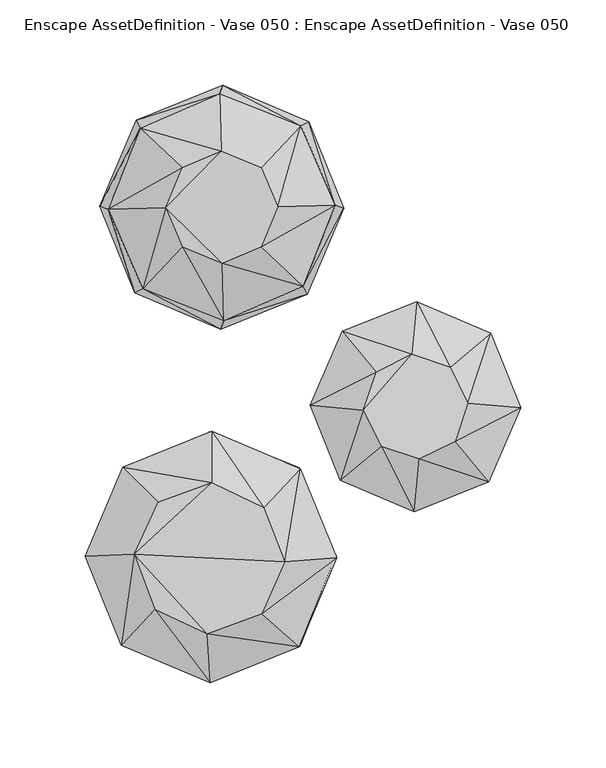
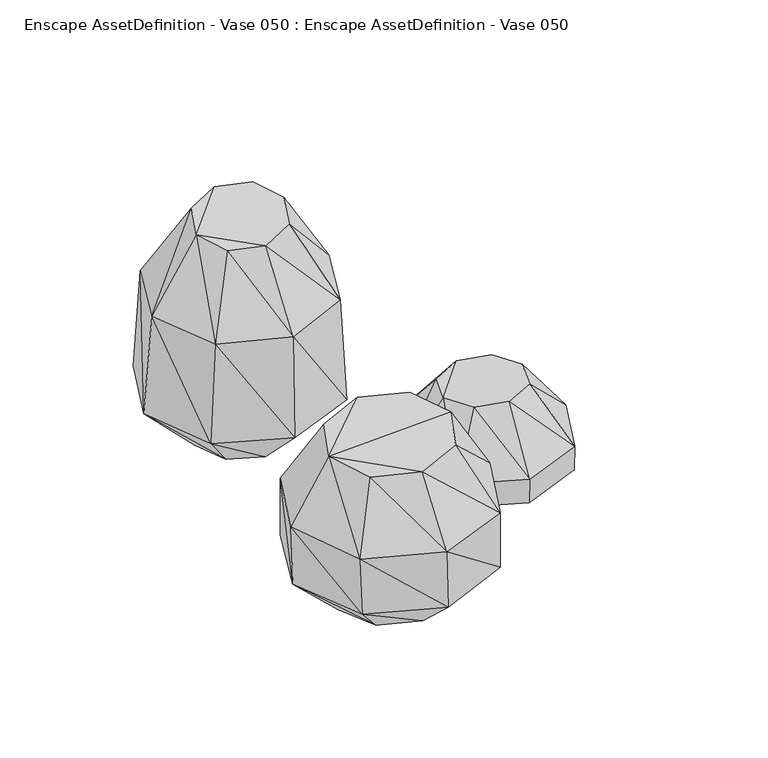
"""IFC4 building model written with IfcOpenShell, lengths in millimetres: geographic element geometry, Enscape AssetDefinition - Vase 050 : Enscape AssetDefinition - Vase 050."""

from ifc_helpers import new_model, si_unit, origin, place, context, project, spatial, triangles, source, transform, mapped, element, save


def enscape_assetdefinition_vase_050_enscape_assetdefinition_a4bf4c07(model_context):
    return source(origin(), model_context, "Body", "Tessellation", [
        triangles([(-1.1596022, 151.1875377, 116.1111994), (-24.4796127, 126.5806821, 174.3184841), (-14.7441298, 103.4253004, 172.7217792), (19.1452976, 104.3347198, 115.2348357), (3.5686704, 153.550602, 38.04401), (-46.9750306, 174.9741127, 38.0066259), (-48.6472123, 169.9597203, 115.2679097), (-47.7370753, 136.0702918, 173.0905794), (-97.8630854, 154.3830912, 38.0109407), (-81.2224769, 103.9206281, 0.0), (-95.5000302, 149.6548187, 114.9896926), (-98.694866, 52.9513328, 37.9692417), (-119.2866142, 103.8393921, 38.0066259), (-46.8937946, 136.9099753, 0.0), (-70.8902996, 127.5253283, 0.0), (-24.2359003, 78.9773196, 0.0), (-23.2898143, 126.5785292, 0.0), (-71.8370986, 79.9241277, 0.0), (-48.2324075, 69.5919459, 0.0), (2.7361725, 52.1195521, 38.005906), (-13.9044418, 102.5820107, 0.0), (24.1596967, 102.662529, 38.0066259), (0.3731144, 56.8478246, 114.8825771), (-46.4797029, 36.5429253, 114.4986706), (-48.1518892, 31.5285261, 38.0066259), (-24.2337452, 80.1678356, 169.3148651), (-70.6465917, 79.9219658, 164.5743477), (-47.3891223, 70.4323515, 165.9273538), (-93.9673112, 55.3151102, 113.624478), (-114.2722128, 102.1672013, 114.5295917), (-80.3820758, 103.0773474, 166.2932835), (-70.8931746, 126.3348123, 169.840378), (127.9387024, -14.5191117, 30.3797068), (110.1133188, 29.0569133, 11.780783), (110.375721, 29.3250678, 30.33873), (86.4719566, 9.4177238, 69.9449312), (66.9535486, 47.9088989, 30.3797068), (96.9601427, -11.6937936, 71.6163953), (64.1275129, 16.9303358, 68.5329943), (66.9571458, 47.533622, 11.7829381), (41.2841352, 12.0798484, 0.0), (66.8895627, 22.1409973, 0.0), (23.3768048, 30.0828, 11.7750307), (30.2927186, -13.1402419, 0.0), (23.1086503, 30.3452022, 30.2337696), (4.9000921, -13.0726634, 11.7829381), (4.5248209, -13.0769771, 30.3797068), (22.3509182, -56.6530009, 11.7829381), (102.1707985, -14.4558468, 0.0), (91.1800994, -39.6759349, 0.0), (92.1096484, 11.1495783, 0.0), (65.5746765, -49.7370849, 0.0), (40.3538686, -38.7456683, 0.0), (65.5063758, -75.1297165, 11.783658), (109.086719, -57.6788876, 11.7879705), (127.5634346, -14.5234242, 11.783658), (109.3555889, -57.9412898, 30.4580677), (68.3360087, -44.5264201, 72.2576671), (45.9915605, -37.0145285, 70.8845496), (65.5106906, -75.5049797, 30.3797068), (89.4482466, -34.038243, 72.5552961), (22.0885159, -56.9218753, 30.3674869), (35.5033789, -15.902294, 69.1951087), (43.0159926, 6.4421542, 68.1232128), (-2.6261791, -49.5386641, 31.6679957), (20.0949785, -102.5554135, 75.9974324), (-22.8591879, -73.3173407, 128.6662379), (-53.3647069, -28.1208921, 75.9974324), (-1.4263179, -50.3050236, 76.2461818), (-54.7730466, -28.6823608, 31.6500212), (-53.5214242, -58.602682, 126.6295617), (-106.3972756, -50.8291104, 31.6169519), (-105.8314853, -49.4667708, 75.5581787), (-55.1749207, -62.5703496, 0.0), (-82.7163719, -75.0743601, 0.0), (-93.3497799, -103.3907912, 0.0), (-105.0931674, -154.6117109, 31.598262), (-127.2377641, -102.9889262, 31.6809378), (-26.8577652, -73.2037485, 0.0), (-52.528616, -141.566368, 0.0), (-80.8457648, -130.93296, 0.0), (-24.9871603, -129.0616353, 0.0), (-14.3537614, -100.7452042, 0.0), (-1.9424955, -154.7317617, 75.8896038), (-1.3112922, -153.3119174, 31.642836), (19.5342273, -101.1485135, 31.6507411), (-54.3388298, -176.0151102, 75.9974324), (-52.9312032, -175.4543522, 31.6471462), (-87.004673, -132.6985954, 120.3139316), (-24.1977985, -135.5447607, 125.5749295), (-55.9427199, -147.0653147, 122.3276078), (-10.5061538, -105.0076166, 128.3326555), (-106.4907292, -154.0171615, 75.312318), (-127.7985129, -101.5805729, 76.4769544), (-84.9989088, -69.8910146, 123.2887954), (-98.9091062, -100.61795, 121.4634799)], [[71, 96, 92], [71, 95, 96], [94, 96, 95], [77, 93, 94], [96, 94, 93], [93, 89, 96], [96, 91, 92], [96, 89, 91], [91, 90, 92], [66, 92, 90], [90, 84, 66], [84, 90, 91], [91, 87, 84], [89, 93, 87], [87, 91, 89], [80, 88, 77], [93, 77, 88], [88, 87, 93], [87, 88, 85], [85, 84, 87], [84, 85, 86], [86, 66, 84], [66, 86, 65], [83, 86, 85], [85, 82, 83], [88, 80, 82], [82, 85, 88], [82, 80, 81], [77, 81, 80], [83, 82, 79], [82, 81, 79], [86, 83, 79], [79, 65, 86], [65, 79, 74], [81, 75, 79], [75, 74, 79], [81, 76, 75], [78, 76, 81], [81, 77, 78], [94, 78, 77], [78, 94, 73], [95, 73, 94], [73, 95, 71], [72, 75, 76], [76, 78, 72], [73, 72, 78], [70, 74, 75], [75, 72, 70], [74, 70, 65], [68, 70, 72], [72, 73, 68], [71, 68, 73], [67, 71, 92], [68, 71, 67], [69, 65, 70], [70, 68, 69], [67, 69, 68], [65, 69, 66], [92, 66, 69], [69, 67, 92], [39, 63, 38], [39, 64, 63], [47, 63, 64], [48, 62, 47], [63, 47, 62], [62, 59, 63], [63, 58, 38], [63, 59, 58], [58, 61, 38], [33, 38, 61], [61, 57, 33], [57, 61, 58], [58, 60, 57], [59, 62, 60], [60, 58, 59], [52, 54, 48], [62, 48, 54], [54, 60, 62], [60, 54, 55], [55, 57, 60], [57, 55, 56], [56, 33, 57], [33, 56, 34], [49, 56, 55], [55, 50, 49], [54, 52, 50], [50, 55, 54], [50, 52, 53], [48, 53, 52], [49, 50, 51], [50, 53, 51], [56, 49, 51], [51, 34, 56], [34, 51, 42], [53, 41, 51], [41, 42, 51], [53, 44, 41], [46, 44, 53], [53, 48, 46], [47, 46, 48], [46, 47, 45], [64, 45, 47], [45, 64, 39], [43, 41, 44], [44, 46, 43], [45, 43, 46], [40, 42, 41], [41, 43, 40], [42, 40, 34], [37, 40, 43], [43, 45, 37], [39, 37, 45], [36, 39, 38], [37, 39, 36], [35, 34, 40], [40, 37, 35], [36, 35, 37], [34, 35, 33], [38, 33, 35], [35, 36, 38], [8, 31, 3], [8, 32, 31], [30, 31, 32], [12, 29, 30], [31, 30, 29], [29, 27, 31], [31, 28, 3], [31, 27, 28], [28, 26, 3], [4, 3, 26], [26, 23, 4], [23, 26, 28], [28, 24, 23], [27, 29, 24], [24, 28, 27], [19, 25, 12], [29, 12, 25], [25, 24, 29], [24, 25, 20], [20, 23, 24], [23, 20, 22], [22, 4, 23], [4, 22, 5], [21, 22, 20], [20, 16, 21], [25, 19, 16], [16, 20, 25], [16, 19, 18], [12, 18, 19], [21, 16, 17], [16, 18, 17], [22, 21, 17], [17, 5, 22], [5, 17, 14], [18, 15, 17], [15, 14, 17], [18, 10, 15], [13, 10, 18], [18, 12, 13], [30, 13, 12], [13, 30, 11], [32, 11, 30], [11, 32, 8], [9, 15, 10], [10, 13, 9], [11, 9, 13], [6, 14, 15], [15, 9, 6], [14, 6, 5], [7, 6, 9], [9, 11, 7], [8, 7, 11], [2, 8, 3], [7, 8, 2], [1, 5, 6], [6, 7, 1], [2, 1, 7], [5, 1, 4], [3, 4, 1], [1, 2, 3]]),
    ])


if __name__ == "__main__":
    model = new_model("IFC4")
    model_context = context("Model", 3, world=origin())
    ifc_project = project(units=[si_unit("LENGTHUNIT", "METRE", prefix="MILLI")], contexts=[model_context])
    site = spatial("IfcSite", under=ifc_project)
    building = spatial("IfcBuilding", under=site)
    placement = place(None, origin())
    enscape_assetdefinition_vase_050_enscape_assetdefinition_shape = enscape_assetdefinition_vase_050_enscape_assetdefinition_a4bf4c07(model_context)
    element("IfcGeographicElement", 1, ObjectType="Enscape AssetDefinition - Vase 050 : Enscape AssetDefinition - Vase 050", at=placement, inside=building, context=model_context, shape_type="MappedRepresentation", body=[
        mapped(enscape_assetdefinition_vase_050_enscape_assetdefinition_shape, transform((0.0, 0.0, 0.0), x_axis=(1.0, 0.0, 0.0), y_axis=(0.0, 1.0, 0.0), z_axis=(0.0, 0.0, 1.0))),
    ])
    save(model, "model.ifc")
